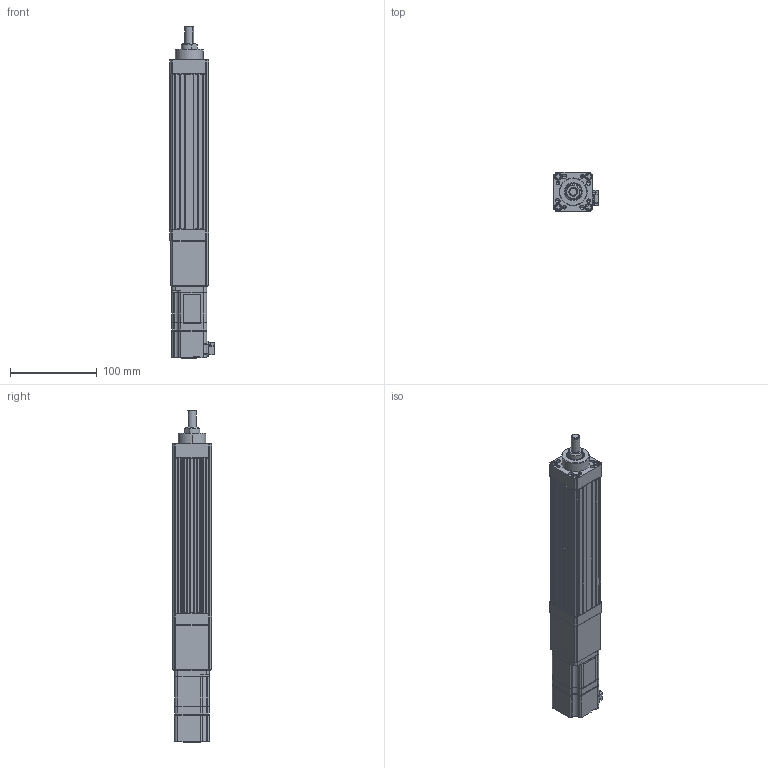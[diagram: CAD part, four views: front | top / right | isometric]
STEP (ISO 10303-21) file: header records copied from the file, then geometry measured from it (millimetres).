
FILE_DESCRIPTION (( 'STEP AP203' ), '1' );
FILE_NAME ('ANS045-S100-05(10)-W10-M.STEP', '2019-02-14T02:51:43', ( 'user' ), ( '' ), 'SwSTEP 2.0', 'SolidWorks 2013', '' );
FILE_SCHEMA (( 'CONFIG_CONTROL_DESIGN' ));
Length unit declared in the file: millimetre
Products named in the file (4): ANS045 ROD ST100 M; SGMJV_01A_A21; ANS045-S100-05(10)-W10-M; ANS045 S100 VER2
Assembly tree (3 placements, depth 2):
  ANS045-S100-05(10)-W10-M
    ANS045 S100 VER2
    ANS045 ROD ST100 M
    SGMJV_01A_A21
Bounding box: 51.3 x 45 x 382.1 mm (x, y, z)
Volume: 481430 mm3; surface area: 133578.8 mm2
Topology: 3 solids, 7 shells, 895 faces, 2251 edges, 1404 vertices
Faces by surface type: plane 480, cylinder 305, cone 108, bspline 2
Entity records: 26713 total; most frequent: CARTESIAN_POINT 5040, ORIENTED_EDGE 4438, DIRECTION 4413, EDGE_CURVE 2219, LINE 1507, VECTOR 1507, AXIS2_PLACEMENT_3D 1453, VERTEX_POINT 1404
